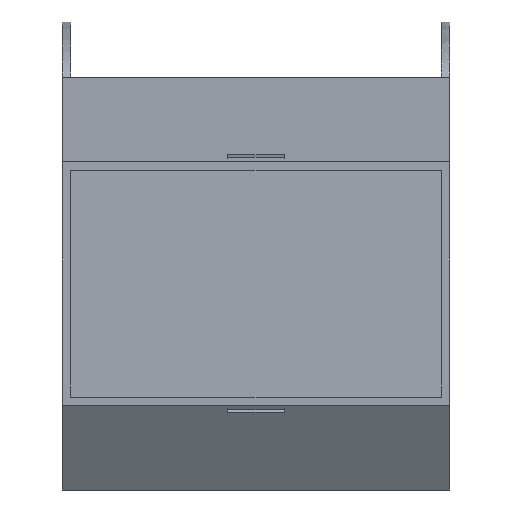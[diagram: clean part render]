
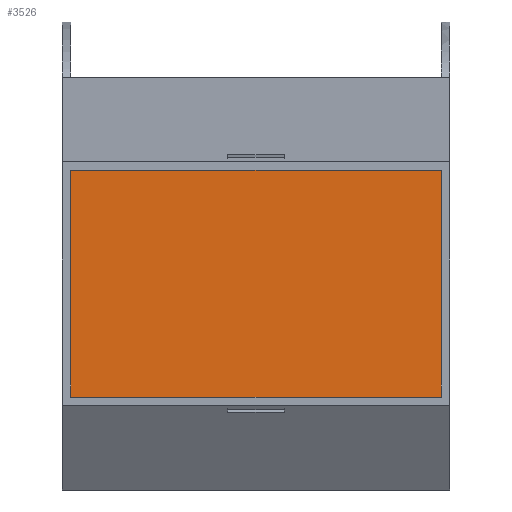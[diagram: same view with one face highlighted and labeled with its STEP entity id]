
A CAD part, front view. The second image highlights one B-rep face of the part: STEP entity #3526.
In plain terms, the highlighted planar face has unit normal (0, -1, 0).
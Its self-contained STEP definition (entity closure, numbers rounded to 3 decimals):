
#132=PLANE('',#3705);
#297=FACE_OUTER_BOUND('',#460,.T.);
#460=EDGE_LOOP('',(#2742,#2743,#2744,#2745));
#798=LINE('',#6481,#1290);
#810=LINE('',#6503,#1302);
#812=LINE('',#6506,#1304);
#813=LINE('',#6507,#1305);
#1290=VECTOR('',#4098,10.);
#1302=VECTOR('',#4118,10.);
#1304=VECTOR('',#4122,10.);
#1305=VECTOR('',#4123,10.);
#1754=VERTEX_POINT('',#6477);
#1755=VERTEX_POINT('',#6479);
#1760=VERTEX_POINT('',#6500);
#1761=VERTEX_POINT('',#6502);
#2138=EDGE_CURVE('',#1754,#1755,#798,.T.);
#2150=EDGE_CURVE('',#1760,#1761,#810,.T.);
#2152=EDGE_CURVE('',#1754,#1760,#812,.T.);
#2153=EDGE_CURVE('',#1755,#1761,#813,.T.);
#2742=ORIENTED_EDGE('',*,*,#2152,.F.);
#2743=ORIENTED_EDGE('',*,*,#2138,.T.);
#2744=ORIENTED_EDGE('',*,*,#2153,.T.);
#2745=ORIENTED_EDGE('',*,*,#2150,.F.);
#3526=ADVANCED_FACE('',(#297),#132,.F.);
#3705=AXIS2_PLACEMENT_3D('',#6505,#4120,#4121);
#4098=DIRECTION('',(1.,0.,0.));
#4118=DIRECTION('',(1.,0.,0.));
#4120=DIRECTION('center_axis',(0.,1.,0.));
#4121=DIRECTION('ref_axis',(0.,0.,1.));
#4122=DIRECTION('',(0.,0.,1.));
#4123=DIRECTION('',(0.,0.,1.));
#6477=CARTESIAN_POINT('',(3.,233.75,-62.947));
#6479=CARTESIAN_POINT('',(134.,233.75,-62.947));
#6481=CARTESIAN_POINT('',(3.,233.75,-62.947));
#6500=CARTESIAN_POINT('',(3.,233.75,62.802));
#6502=CARTESIAN_POINT('',(134.,233.75,62.802));
#6503=CARTESIAN_POINT('',(3.,233.75,62.802));
#6505=CARTESIAN_POINT('Origin',(3.,233.75,-62.947));
#6506=CARTESIAN_POINT('',(3.,233.75,-62.947));
#6507=CARTESIAN_POINT('',(134.,233.75,-62.947));
